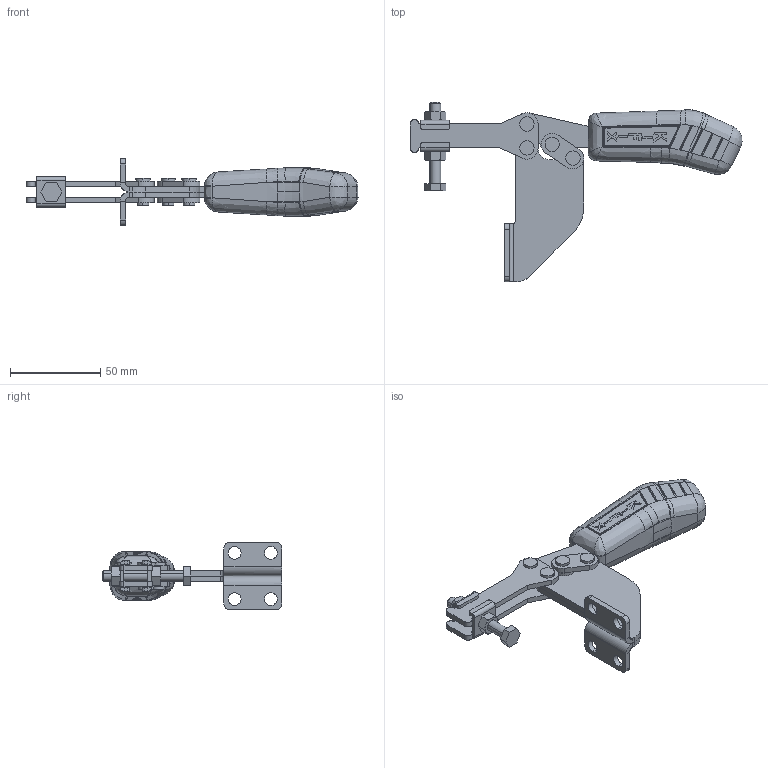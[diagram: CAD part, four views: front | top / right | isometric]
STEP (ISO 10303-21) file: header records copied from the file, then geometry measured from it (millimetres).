
FILE_DESCRIPTION (( 'STEP AP203' ), '1' );
FILE_NAME ('KF-152 F.STEP', '2014-08-15T17:21:38', ( 'Ricardo' ), ( '' ), 'SwSTEP 2.0', 'SolidWorks 2013', '' );
FILE_SCHEMA (( 'CONFIG_CONTROL_DESIGN' ));
Length unit declared in the file: millimetre
Products named in the file (11): 02.12068_Esquerda; KF-152 F; 01.10100; 03.13026; 08.10049; 07.60001; 14.10004; 11.50001; 12.50002; 02.12068_Direita; 06.50023
Assembly tree (18 placements, depth 2):
  KF-152 F
    02.12068_Direita
    02.12068_Esquerda
    01.10100  x2
    03.13026  x2
    08.10049  x2
    07.60001
    14.10004  x2
    11.50001  x2
    12.50002
    06.50023  x4
Bounding box: 183.5 x 99.2 x 37 mm (x, y, z)
Volume: 79940.7 mm3; surface area: 42439.6 mm2
Topology: 18 solids, 18 shells, 648 faces, 1621 edges, 1024 vertices
Faces by surface type: plane 266, cylinder 205, bspline 128, cone 46, torus 3
Entity records: 20654 total; most frequent: CARTESIAN_POINT 8060, ORIENTED_EDGE 2640, DIRECTION 1874, EDGE_CURVE 1320, VERTEX_POINT 843, AXIS2_PLACEMENT_3D 663, EDGE_LOOP 573, LINE 548
